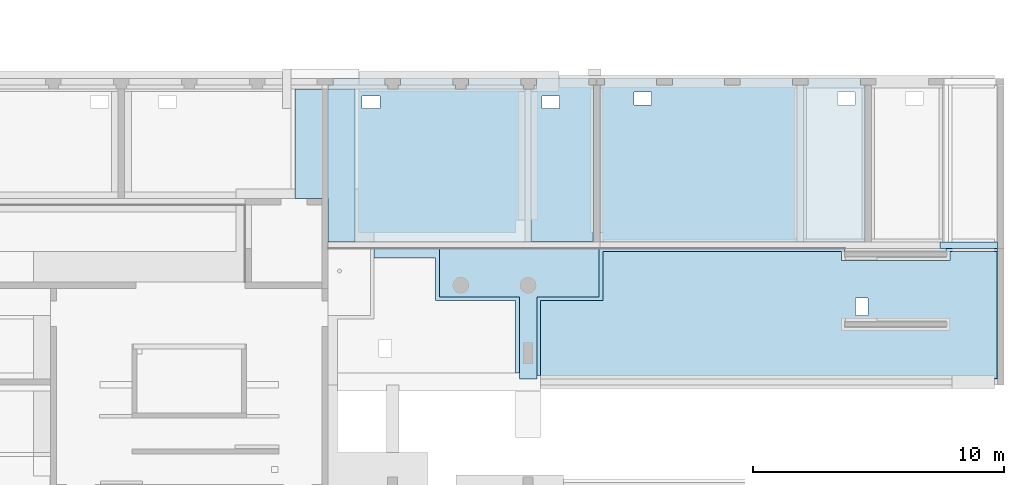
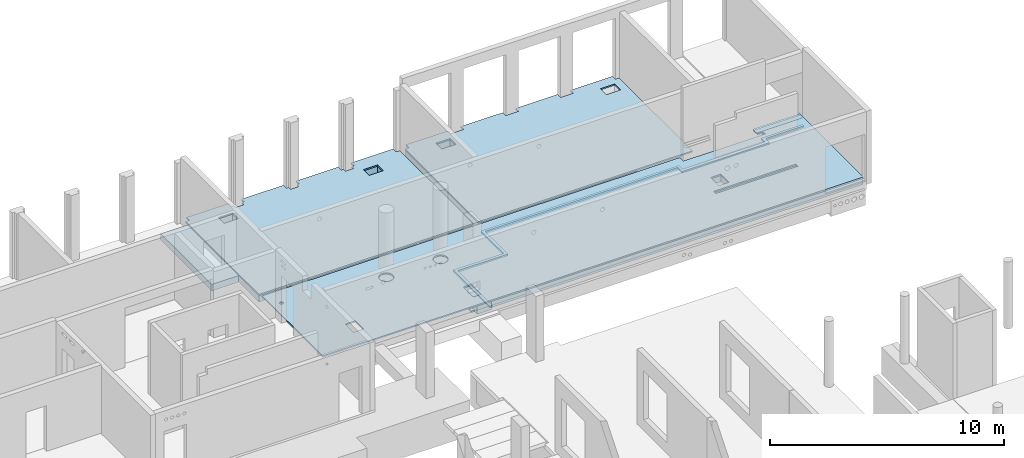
# One storey, part 33 of 60: 12 slabs, 51 openings.
"""IFC2X3 building model written with IfcOpenShell, lengths in millimetres."""

from ifc_helpers import new_model, entity, si_unit, converted_unit, derived_unit, direction, frame, frame_2d, origin, origin_2d_with_axis, place, context, subcontext, project, spatial, polyline, rectangle, circle, outline, extrude, material, layer, layer_set, layer_usage, element, save


model = new_model("IFC2X3")

# Units and contexts
model_context = context("Model", 3, precision=0.01, world=origin(), true_north=direction((6.12303176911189e-17, 1.0)))
body_context = subcontext(model_context, "Body", "Model", "MODEL_VIEW")
ifc_project = project(units=[si_unit("LENGTHUNIT", "METRE", prefix="MILLI"), si_unit("AREAUNIT", "SQUARE_METRE"), si_unit("VOLUMEUNIT", "CUBIC_METRE"), converted_unit("PLANEANGLEUNIT", "DEGREE", entity("IfcRatioMeasure", 0.0174532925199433), si_unit("PLANEANGLEUNIT", "RADIAN"), dimensions=[0, 0, 0, 0, 0, 0, 0]), si_unit("MASSUNIT", "GRAM", prefix="KILO"), derived_unit("MASSDENSITYUNIT", [(si_unit("MASSUNIT", "GRAM", prefix="KILO"), 1), (si_unit("LENGTHUNIT", "METRE"), -3)]), si_unit("TIMEUNIT", "SECOND"), si_unit("FREQUENCYUNIT", "HERTZ"), si_unit("THERMODYNAMICTEMPERATUREUNIT", "DEGREE_CELSIUS"), derived_unit("THERMALTRANSMITTANCEUNIT", [(si_unit("MASSUNIT", "GRAM", prefix="KILO"), 1), (si_unit("THERMODYNAMICTEMPERATUREUNIT", "KELVIN"), -1), (si_unit("TIMEUNIT", "SECOND"), -3)]), derived_unit("VOLUMETRICFLOWRATEUNIT", [(si_unit("LENGTHUNIT", "METRE"), 3), (si_unit("TIMEUNIT", "SECOND"), -1)]), si_unit("ELECTRICCURRENTUNIT", "AMPERE"), si_unit("ELECTRICVOLTAGEUNIT", "VOLT"), si_unit("POWERUNIT", "WATT"), si_unit("FORCEUNIT", "NEWTON", prefix="KILO"), si_unit("ILLUMINANCEUNIT", "LUX"), si_unit("LUMINOUSFLUXUNIT", "LUMEN"), si_unit("LUMINOUSINTENSITYUNIT", "CANDELA"), derived_unit("USERDEFINED", [(si_unit("MASSUNIT", "GRAM", prefix="KILO"), -1), (si_unit("LENGTHUNIT", "METRE"), -2), (si_unit("TIMEUNIT", "SECOND"), 3), (si_unit("LUMINOUSFLUXUNIT", "LUMEN"), 1)]), derived_unit("LINEARVELOCITYUNIT", [(si_unit("LENGTHUNIT", "METRE"), 1), (si_unit("TIMEUNIT", "SECOND"), -1)]), si_unit("PRESSUREUNIT", "PASCAL"), derived_unit("USERDEFINED", [(si_unit("LENGTHUNIT", "METRE"), -2), (si_unit("MASSUNIT", "GRAM", prefix="KILO"), 1), (si_unit("TIMEUNIT", "SECOND"), -2)])], contexts=[model_context])

# Site, building, storey
site_placement = place(None, origin())
site = spatial("IfcSite", under=ifc_project, at=site_placement, Name="Default", CompositionType="ELEMENT")
building_placement = place(site_placement, origin())
building = spatial("IfcBuilding", under=site, at=building_placement, Name="niet gebruiken", CompositionType="ELEMENT")
storey_placement = place(building_placement, origin())
storey = spatial("IfcBuildingStorey", under=building, at=storey_placement, Name="00 begane grond", CompositionType="ELEMENT", Elevation=0.0)

# Slab, openings
ifc_material_1 = material(Name="NLRS_f2_beton ihwg")
ifc_layer_1 = layer(ifc_material_1, 70.0)
ifc_layer_set_1 = layer_set([ifc_layer_1], Name="Floor:NLRS_23.21_FL_druklaag d=70_gen")
ifc_layer_usage_1 = layer_usage(ifc_layer_set_1, "AXIS3", "POSITIVE", 0.0)
slab_1_placement = place(storey_placement, frame((8180.0, 45156.0, -160.0)))
slab_1 = element("IfcSlab", 1, at=slab_1_placement, inside=storey, material=ifc_layer_usage_1, Name="Floor:NLRS_23.21_FL_druklaag d=70_gen:6", ObjectType="Floor:NLRS_23.21_FL_druklaag d=70_gen", PredefinedType="FLOOR", context=body_context, shape_type="SweptSolid", body=[
    extrude(outline(polyline([(-55247.4999999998, 3800.0), (-55247.4999999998, -2460.0), (-44697.4999999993, -2460.0), (-44697.4999999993, 3800.0), (-44882.5000000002, 3800.0), (-44882.5000000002, 4050.0), (-46962.5000000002, 4050.0), (-46962.5000000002, 3800.0), (-47582.5000000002, 3800.0), (-47582.5000000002, 4050.0), (-49662.5000000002, 4050.0), (-49662.5000000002, 3800.0), (-50282.5000000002, 3800.0), (-50282.5000000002, 4050.0), (-52362.5000000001, 4050.0), (-52362.5000000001, 3800.0), (-52982.5000000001, 3800.0), (-52982.5000000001, 4050.0), (-55062.5000000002, 4050.0), (-55062.5000000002, 3800.0), (-55247.4999999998, 3800.0)])), frame((55247.4999999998, 4050.0, 70.0), z_axis=(0.0, 0.0, -1.0), x_axis=(-1.0, 0.0, 0.0)), (0.0, 0.0, 1.0), 70.0),
])
placement_1 = place(storey_placement, frame((8180.0, 45156.0, -160.0)))
placement_2 = place(placement_1, origin())
element("IfcOpeningElement", 2, at=placement_2, cuts=slab_1, ObjectType="Opening", context=body_context, shape_type="SweptSolid", body=[
    extrude(rectangle(XDim=700.000000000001, YDim=499.999999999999, at=origin_2d_with_axis()), frame((1750.0, 7302.50000000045, -380.0), z_axis=(0.0, 0.0, 1.0), x_axis=(-1.0, 0.0, 0.0)), (0.0, 0.0, 1.0), 450.0),
])
placement_3 = place(placement_1, origin())
element("IfcOpeningElement", 3, at=placement_3, cuts=slab_1, ObjectType="Opening", context=body_context, shape_type="SweptSolid", body=[
    extrude(rectangle(XDim=700.000000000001, YDim=499.999999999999, at=origin_2d_with_axis()), frame((4450.0, 7302.50000000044, -380.0), z_axis=(0.0, 0.0, 1.0), x_axis=(-1.0, 0.0, 0.0)), (0.0, 0.0, 1.0), 450.0),
])
placement_4 = place(placement_1, origin())
element("IfcOpeningElement", 4, at=placement_4, cuts=slab_1, ObjectType="Opening", context=body_context, shape_type="SweptSolid", body=[
    extrude(rectangle(XDim=700.000000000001, YDim=499.999999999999, at=origin_2d_with_axis()), frame((12550.0, 7302.50000000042, -380.0), z_axis=(0.0, 0.0, 1.0), x_axis=(-1.0, 0.0, 0.0)), (0.0, 0.0, 1.0), 450.0),
])
placement_5 = place(placement_1, origin())
element("IfcOpeningElement", 5, at=placement_5, cuts=slab_1, ObjectType="Opening", context=body_context, shape_type="SweptSolid", body=[
    extrude(rectangle(XDim=700.000000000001, YDim=499.999999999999, at=origin_2d_with_axis()), frame((15250.0, 7302.50000000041, -380.0), z_axis=(0.0, 0.0, 1.0), x_axis=(-1.0, 0.0, 0.0)), (0.0, 0.0, 1.0), 450.0),
])
placement_6 = place(placement_1, origin())
element("IfcOpeningElement", 6, at=placement_6, cuts=slab_1, ObjectType="Opening", context=body_context, shape_type="SweptSolid", body=[
    extrude(rectangle(XDim=700.000000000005, YDim=499.999999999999, at=origin_2d_with_axis()), frame((42250.0, 7175.0, -380.0), z_axis=(0.0, 0.0, 1.0), x_axis=(-1.0, 0.0, 0.0)), (0.0, 0.0, 1.0), 450.0),
])
placement_7 = place(placement_1, origin())
element("IfcOpeningElement", 7, at=placement_7, cuts=slab_1, ObjectType="Opening", context=body_context, shape_type="SweptSolid", body=[
    extrude(rectangle(XDim=700.000000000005, YDim=499.999999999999, at=origin_2d_with_axis()), frame((50350.0, 7102.50000000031, -380.0), z_axis=(0.0, 0.0, 1.0), x_axis=(-1.0, 0.0, 0.0)), (0.0, 0.0, 1.0), 450.0),
])
placement_8 = place(placement_1, origin())
element("IfcOpeningElement", 8, at=placement_8, cuts=slab_1, ObjectType="Opening", context=body_context, shape_type="SweptSolid", body=[
    extrude(rectangle(XDim=699.999999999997, YDim=499.999999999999, at=origin_2d_with_axis()), frame((53050.0, 7102.50000000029, -380.0), z_axis=(0.0, 0.0, 1.0), x_axis=(-1.0, 0.0, 0.0)), (0.0, 0.0, 1.0), 450.0),
])
placement_9 = place(placement_1, origin())
element("IfcOpeningElement", 9, at=placement_9, cuts=slab_1, ObjectType="Opening", context=body_context, shape_type="SweptSolid", body=[
    extrude(rectangle(XDim=699.999999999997, YDim=499.999999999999, at=origin_2d_with_axis()), frame((60190.0, 7302.50000000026, -380.0), z_axis=(0.0, 0.0, 1.0), x_axis=(-1.0, 0.0, 0.0)), (0.0, 0.0, 1.0), 450.0),
])
placement_10 = place(placement_1, origin())
element("IfcOpeningElement", 10, at=placement_10, cuts=slab_1, ObjectType="Opening", context=body_context, shape_type="SweptSolid", body=[
    extrude(rectangle(XDim=700.000000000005, YDim=499.999999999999, at=origin_2d_with_axis()), frame((63850.0, 7302.50000000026, -380.0), z_axis=(0.0, 0.0, 1.0), x_axis=(-1.0, 0.0, 0.0)), (0.0, 0.0, 1.0), 450.0),
])
placement_11 = place(placement_1, origin())
element("IfcOpeningElement", 11, at=placement_11, cuts=slab_1, ObjectType="Opening", context=body_context, shape_type="SweptSolid", body=[
    extrude(rectangle(XDim=699.999999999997, YDim=499.999999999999, at=origin_2d_with_axis()), frame((90850.0, 7155.0, -380.0), z_axis=(0.0, 0.0, 1.0), x_axis=(-1.0, 0.0, 0.0)), (0.0, 0.0, 1.0), 450.0),
])
placement_12 = place(placement_1, origin())
element("IfcOpeningElement", 12, at=placement_12, cuts=slab_1, ObjectType="Opening", context=body_context, shape_type="SweptSolid", body=[
    extrude(rectangle(XDim=699.999999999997, YDim=499.999999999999, at=origin_2d_with_axis()), frame((97990.0, 7155.0, -380.0), z_axis=(0.0, 0.0, 1.0), x_axis=(-1.0, 0.0, 0.0)), (0.0, 0.0, 1.0), 450.0),
])
placement_13 = place(placement_1, origin())
element("IfcOpeningElement", 13, at=placement_13, cuts=slab_1, ObjectType="Opening", context=body_context, shape_type="SweptSolid", body=[
    extrude(rectangle(XDim=699.999999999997, YDim=499.999999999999, at=origin_2d_with_axis()), frame((101650.0, 7302.50000000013, -380.0), z_axis=(0.0, 0.0, 1.0), x_axis=(-1.0, 0.0, 0.0)), (0.0, 0.0, 1.0), 450.0),
])
placement_14 = place(placement_1, origin())
element("IfcOpeningElement", 14, at=placement_14, cuts=slab_1, ObjectType="Opening", context=body_context, shape_type="SweptSolid", body=[
    extrude(rectangle(XDim=699.999999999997, YDim=499.999999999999, at=origin_2d_with_axis()), frame((109750.0, 7302.50000000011, -380.0), z_axis=(0.0, 0.0, 1.0), x_axis=(-1.0, 0.0, 0.0)), (0.0, 0.0, 1.0), 450.0),
])
placement_15 = place(placement_1, origin())
element("IfcOpeningElement", 15, at=placement_15, cuts=slab_1, ObjectType="Opening", context=body_context, shape_type="SweptSolid", body=[
    extrude(rectangle(XDim=699.999999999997, YDim=499.999999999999, at=origin_2d_with_axis()), frame((112450.0, 7302.5000000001, -380.0), z_axis=(0.0, 0.0, 1.0), x_axis=(-1.0, 0.0, 0.0)), (0.0, 0.0, 1.0), 450.0),
])
placement_16 = place(placement_1, origin())
element("IfcOpeningElement", 16, at=placement_16, cuts=slab_1, ObjectType="Opening", context=body_context, shape_type="SweptSolid", body=[
    extrude(rectangle(XDim=700.000000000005, YDim=499.999999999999, at=origin_2d_with_axis()), frame((31450.0, 7175.0, -380.0), z_axis=(0.0, 0.0, 1.0), x_axis=(-1.0, 0.0, 0.0)), (0.0, 0.0, 1.0), 450.0),
])
placement_17 = place(placement_1, origin())
element("IfcOpeningElement", 17, at=placement_17, cuts=slab_1, ObjectType="Opening", context=body_context, shape_type="SweptSolid", body=[
    extrude(rectangle(XDim=700.000000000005, YDim=499.999999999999, at=origin_2d_with_axis()), frame((34150.0, 7175.0, -380.0), z_axis=(0.0, 0.0, 1.0), x_axis=(-1.0, 0.0, 0.0)), (0.0, 0.0, 1.0), 450.0),
])
placement_18 = place(placement_1, origin())
element("IfcOpeningElement", 18, at=placement_18, cuts=slab_1, ObjectType="Opening", context=body_context, shape_type="SweptSolid", body=[
    extrude(rectangle(XDim=699.999999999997, YDim=499.999999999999, at=origin_2d_with_axis()), frame((82750.0, 7175.0, -380.0), z_axis=(0.0, 0.0, 1.0), x_axis=(-1.0, 0.0, 0.0)), (0.0, 0.0, 1.0), 450.0),
])
placement_19 = place(placement_1, origin())
element("IfcOpeningElement", 19, at=placement_19, cuts=slab_1, ObjectType="Opening", context=body_context, shape_type="SweptSolid", body=[
    extrude(rectangle(XDim=699.999999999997, YDim=499.999999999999, at=origin_2d_with_axis()), frame((80050.0, 7175.0, -380.0), z_axis=(0.0, 0.0, 1.0), x_axis=(-1.0, 0.0, 0.0)), (0.0, 0.0, 1.0), 450.0),
])
placement_20 = place(placement_1, origin())
element("IfcOpeningElement", 20, at=placement_20, cuts=slab_1, ObjectType="Opening", context=body_context, shape_type="SweptSolid", body=[
    extrude(rectangle(XDim=700.000000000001, YDim=499.999999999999, at=origin_2d_with_axis()), frame((19739.8230847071, 7129.78918001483, -380.0), z_axis=(0.0, 0.0, 1.0), x_axis=(-1.0, 0.0, 0.0)), (0.0, 0.0, 1.0), 450.0),
])

slab_2_placement = place(storey_placement, frame((8180.0, 45156.0, -160.0)))
slab_2 = element("IfcSlab", 21, at=slab_2_placement, inside=storey, material=ifc_layer_usage_1, Name="Floor:NLRS_23.21_FL_druklaag d=70_gen:13", ObjectType="Floor:NLRS_23.21_FL_druklaag d=70_gen", PredefinedType="FLOOR", context=body_context, shape_type="SweptSolid", body=[
    extrude(outline(polyline([(-36162.5000000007, 3800.0), (-36267.5000000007, 3800.0), (-36267.5000000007, 3640.0), (-36677.5000000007, 3640.0), (-36677.5000000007, 3800.0), (-36782.5000000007, 3800.0), (-36782.5000000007, 4050.0), (-38862.5000000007, 4050.0), (-38862.5000000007, 3800.0), (-38967.5000000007, 3800.0), (-38967.5000000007, 3640.0), (-39377.5000000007, 3640.0), (-39377.5000000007, 3800.0), (-39482.5000000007, 3800.0), (-39482.5000000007, 4050.0), (-41562.5000000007, 4050.0), (-41562.5000000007, 3800.0), (-41667.5000000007, 3800.0), (-41667.5000000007, 3640.0), (-42077.5000000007, 3640.0), (-42077.5000000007, 3800.0), (-42182.5000000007, 3800.0), (-42182.5000000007, 4050.0), (-44262.5000000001, 4050.0), (-44262.5000000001, 3800.0), (-44447.4999999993, 3800.0), (-44447.4999999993, -2460.0), (-33897.4999999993, -2460.0), (-33897.4999999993, 3800.0), (-34082.5000000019, 3800.0), (-34082.5000000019, 4050.0), (-36162.5000000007, 4050.0), (-36162.5000000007, 3800.0)])), frame((55247.4999999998, 4050.0, 70.0), z_axis=(0.0, 0.0, -1.0), x_axis=(-1.0, 0.0, 0.0)), (0.0, 0.0, 1.0), 70.0),
])
element("IfcOpeningElement", 22, at=placement_2, cuts=slab_2, ObjectType="Opening", context=body_context, shape_type="SweptSolid", body=[
    extrude(rectangle(XDim=700.000000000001, YDim=499.999999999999, at=origin_2d_with_axis()), frame((1750.0, 7302.50000000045, -380.0), z_axis=(0.0, 0.0, 1.0), x_axis=(-1.0, 0.0, 0.0)), (0.0, 0.0, 1.0), 450.0),
])
element("IfcOpeningElement", 23, at=placement_3, cuts=slab_2, ObjectType="Opening", context=body_context, shape_type="SweptSolid", body=[
    extrude(rectangle(XDim=700.000000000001, YDim=499.999999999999, at=origin_2d_with_axis()), frame((4450.0, 7302.50000000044, -380.0), z_axis=(0.0, 0.0, 1.0), x_axis=(-1.0, 0.0, 0.0)), (0.0, 0.0, 1.0), 450.0),
])
element("IfcOpeningElement", 24, at=placement_4, cuts=slab_2, ObjectType="Opening", context=body_context, shape_type="SweptSolid", body=[
    extrude(rectangle(XDim=700.000000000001, YDim=499.999999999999, at=origin_2d_with_axis()), frame((12550.0, 7302.50000000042, -380.0), z_axis=(0.0, 0.0, 1.0), x_axis=(-1.0, 0.0, 0.0)), (0.0, 0.0, 1.0), 450.0),
])
element("IfcOpeningElement", 25, at=placement_5, cuts=slab_2, ObjectType="Opening", context=body_context, shape_type="SweptSolid", body=[
    extrude(rectangle(XDim=700.000000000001, YDim=499.999999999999, at=origin_2d_with_axis()), frame((15250.0, 7302.50000000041, -380.0), z_axis=(0.0, 0.0, 1.0), x_axis=(-1.0, 0.0, 0.0)), (0.0, 0.0, 1.0), 450.0),
])
element("IfcOpeningElement", 26, at=placement_6, cuts=slab_2, ObjectType="Opening", context=body_context, shape_type="SweptSolid", body=[
    extrude(rectangle(XDim=700.000000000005, YDim=499.999999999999, at=origin_2d_with_axis()), frame((42250.0, 7175.0, -380.0), z_axis=(0.0, 0.0, 1.0), x_axis=(-1.0, 0.0, 0.0)), (0.0, 0.0, 1.0), 450.0),
])
element("IfcOpeningElement", 27, at=placement_7, cuts=slab_2, ObjectType="Opening", context=body_context, shape_type="SweptSolid", body=[
    extrude(rectangle(XDim=700.000000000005, YDim=499.999999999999, at=origin_2d_with_axis()), frame((50350.0, 7102.50000000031, -380.0), z_axis=(0.0, 0.0, 1.0), x_axis=(-1.0, 0.0, 0.0)), (0.0, 0.0, 1.0), 450.0),
])
element("IfcOpeningElement", 28, at=placement_8, cuts=slab_2, ObjectType="Opening", context=body_context, shape_type="SweptSolid", body=[
    extrude(rectangle(XDim=699.999999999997, YDim=499.999999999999, at=origin_2d_with_axis()), frame((53050.0, 7102.50000000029, -380.0), z_axis=(0.0, 0.0, 1.0), x_axis=(-1.0, 0.0, 0.0)), (0.0, 0.0, 1.0), 450.0),
])
element("IfcOpeningElement", 29, at=placement_9, cuts=slab_2, ObjectType="Opening", context=body_context, shape_type="SweptSolid", body=[
    extrude(rectangle(XDim=699.999999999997, YDim=499.999999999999, at=origin_2d_with_axis()), frame((60190.0, 7302.50000000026, -380.0), z_axis=(0.0, 0.0, 1.0), x_axis=(-1.0, 0.0, 0.0)), (0.0, 0.0, 1.0), 450.0),
])
element("IfcOpeningElement", 30, at=placement_10, cuts=slab_2, ObjectType="Opening", context=body_context, shape_type="SweptSolid", body=[
    extrude(rectangle(XDim=700.000000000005, YDim=499.999999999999, at=origin_2d_with_axis()), frame((63850.0, 7302.50000000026, -380.0), z_axis=(0.0, 0.0, 1.0), x_axis=(-1.0, 0.0, 0.0)), (0.0, 0.0, 1.0), 450.0),
])
element("IfcOpeningElement", 31, at=placement_11, cuts=slab_2, ObjectType="Opening", context=body_context, shape_type="SweptSolid", body=[
    extrude(rectangle(XDim=699.999999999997, YDim=499.999999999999, at=origin_2d_with_axis()), frame((90850.0, 7155.0, -380.0), z_axis=(0.0, 0.0, 1.0), x_axis=(-1.0, 0.0, 0.0)), (0.0, 0.0, 1.0), 450.0),
])
element("IfcOpeningElement", 32, at=placement_12, cuts=slab_2, ObjectType="Opening", context=body_context, shape_type="SweptSolid", body=[
    extrude(rectangle(XDim=699.999999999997, YDim=499.999999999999, at=origin_2d_with_axis()), frame((97990.0, 7155.0, -380.0), z_axis=(0.0, 0.0, 1.0), x_axis=(-1.0, 0.0, 0.0)), (0.0, 0.0, 1.0), 450.0),
])
element("IfcOpeningElement", 33, at=placement_13, cuts=slab_2, ObjectType="Opening", context=body_context, shape_type="SweptSolid", body=[
    extrude(rectangle(XDim=699.999999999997, YDim=499.999999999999, at=origin_2d_with_axis()), frame((101650.0, 7302.50000000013, -380.0), z_axis=(0.0, 0.0, 1.0), x_axis=(-1.0, 0.0, 0.0)), (0.0, 0.0, 1.0), 450.0),
])
element("IfcOpeningElement", 34, at=placement_14, cuts=slab_2, ObjectType="Opening", context=body_context, shape_type="SweptSolid", body=[
    extrude(rectangle(XDim=699.999999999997, YDim=499.999999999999, at=origin_2d_with_axis()), frame((109750.0, 7302.50000000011, -380.0), z_axis=(0.0, 0.0, 1.0), x_axis=(-1.0, 0.0, 0.0)), (0.0, 0.0, 1.0), 450.0),
])
element("IfcOpeningElement", 35, at=placement_15, cuts=slab_2, ObjectType="Opening", context=body_context, shape_type="SweptSolid", body=[
    extrude(rectangle(XDim=699.999999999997, YDim=499.999999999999, at=origin_2d_with_axis()), frame((112450.0, 7302.5000000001, -380.0), z_axis=(0.0, 0.0, 1.0), x_axis=(-1.0, 0.0, 0.0)), (0.0, 0.0, 1.0), 450.0),
])
element("IfcOpeningElement", 36, at=placement_16, cuts=slab_2, ObjectType="Opening", context=body_context, shape_type="SweptSolid", body=[
    extrude(rectangle(XDim=700.000000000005, YDim=499.999999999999, at=origin_2d_with_axis()), frame((31450.0, 7175.0, -380.0), z_axis=(0.0, 0.0, 1.0), x_axis=(-1.0, 0.0, 0.0)), (0.0, 0.0, 1.0), 450.0),
])
element("IfcOpeningElement", 37, at=placement_17, cuts=slab_2, ObjectType="Opening", context=body_context, shape_type="SweptSolid", body=[
    extrude(rectangle(XDim=700.000000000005, YDim=499.999999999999, at=origin_2d_with_axis()), frame((34150.0, 7175.0, -380.0), z_axis=(0.0, 0.0, 1.0), x_axis=(-1.0, 0.0, 0.0)), (0.0, 0.0, 1.0), 450.0),
])
element("IfcOpeningElement", 38, at=placement_18, cuts=slab_2, ObjectType="Opening", context=body_context, shape_type="SweptSolid", body=[
    extrude(rectangle(XDim=699.999999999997, YDim=499.999999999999, at=origin_2d_with_axis()), frame((82750.0, 7175.0, -380.0), z_axis=(0.0, 0.0, 1.0), x_axis=(-1.0, 0.0, 0.0)), (0.0, 0.0, 1.0), 450.0),
])
element("IfcOpeningElement", 39, at=placement_19, cuts=slab_2, ObjectType="Opening", context=body_context, shape_type="SweptSolid", body=[
    extrude(rectangle(XDim=699.999999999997, YDim=499.999999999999, at=origin_2d_with_axis()), frame((80050.0, 7175.0, -380.0), z_axis=(0.0, 0.0, 1.0), x_axis=(-1.0, 0.0, 0.0)), (0.0, 0.0, 1.0), 450.0),
])
element("IfcOpeningElement", 40, at=placement_20, cuts=slab_2, ObjectType="Opening", context=body_context, shape_type="SweptSolid", body=[
    extrude(rectangle(XDim=700.000000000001, YDim=499.999999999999, at=origin_2d_with_axis()), frame((19739.8230847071, 7129.78918001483, -380.0), z_axis=(0.0, 0.0, 1.0), x_axis=(-1.0, 0.0, 0.0)), (0.0, 0.0, 1.0), 450.0),
])

# Slab, opening
ifc_material_2 = material(Name="NLRS_f2_beton prefab")
ifc_layer_2 = layer(ifc_material_2, 200.0)
ifc_material_3 = material(Name="NLRS_n7_isolatie EPS")
ifc_layer_3 = layer(ifc_material_3, 132.0)
ifc_layer_set_2 = layer_set([ifc_layer_2, ifc_layer_3], Name="Floor:NLRS_23.21_FL_geisoleerde kanaalplaat d=200 rc 3.5 iso132_gen")
ifc_layer_usage_2 = layer_usage(ifc_layer_set_2, "AXIS3", "POSITIVE", 0.0)
slab_3_placement = place(storey_placement, frame((108145.0, 46766.0, -492.0)))
slab_3 = element("IfcSlab", 41, at=slab_3_placement, inside=storey, material=ifc_layer_usage_2, Name="Floor:NLRS_23.21_FL_geisoleerde kanaalplaat d=200 rc 3.5 iso132_gen", ObjectType="Floor:NLRS_23.21_FL_geisoleerde kanaalplaat d=200 rc 3.5 iso132_gen", PredefinedType="FLOOR", context=body_context, shape_type="SweptSolid", body=[
    extrude(rectangle(XDim=6220.00000000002, YDim=7809.99999999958, at=frame_2d((0.0, 0.0), x_axis=(0.0, -1.0))), frame((3905.0, 3110.0, 332.0), z_axis=(0.0, 0.0, -1.0), x_axis=(-1.0, 0.0, 0.0)), (0.0, 0.0, 1.0), 332.0),
])
opening_39_placement = place(slab_3_placement, origin())
element("IfcOpeningElement", 42, at=opening_39_placement, cuts=slab_3, ObjectType="Opening", context=body_context, shape_type="SweptSolid", body=[
    extrude(rectangle(XDim=699.999999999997, YDim=499.999999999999, at=origin_2d_with_axis()), frame((1685.0, 5692.5000000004, -48.0), z_axis=(0.0, 0.0, 1.0), x_axis=(-1.0, 0.0, 0.0)), (0.0, 0.0, 1.0), 450.0),
])

# Slab, openings
ifc_layer_usage_3 = layer_usage(ifc_layer_set_2, "AXIS3", "POSITIVE", 0.0)
slab_4_placement = place(storey_placement, frame((97345.0, 41331.0, -402.0)))
slab_4 = element("IfcSlab", 43, at=slab_4_placement, inside=storey, material=ifc_layer_usage_3, Name="Floor:NLRS_23.21_FL_geisoleerde kanaalplaat d=200 rc 3.5 iso132_gen:2", ObjectType="Floor:NLRS_23.21_FL_geisoleerde kanaalplaat d=200 rc 3.5 iso132_gen", PredefinedType="FLOOR", context=body_context, shape_type="SweptSolid", body=[
    extrude(outline(polyline([(5012.50000000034, -2572.50000000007), (5012.50000000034, 667.500000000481), (2537.50000000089, 667.500000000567), (2537.50000000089, 2572.50000000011), (-7202.49999999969, 2572.50000000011), (-7202.49999999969, 2217.50000000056), (-11302.4999999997, 2217.50000000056), (-11302.4999999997, 2572.50000000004), (-13292.5, 2572.50000000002), (-13292.5, -2572.50000000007), (5012.50000000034, -2572.50000000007)])), frame((13292.5, 2572.50000000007, 332.0), z_axis=(0.0, 0.0, -1.0), x_axis=(-1.0, 0.0, 0.0)), (0.0, 0.0, 1.0), 332.0),
])
placement_21 = place(storey_placement, frame((97345.0, 41331.0, -402.0)))
opening_40_placement = place(placement_21, origin())
element("IfcOpeningElement", 44, at=opening_40_placement, cuts=slab_4, ObjectType="Opening", context=body_context, shape_type="SweptSolid", body=[
    extrude(rectangle(XDim=700.000000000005, YDim=500.000000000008, at=origin_2d_with_axis()), frame((2250.0, 1200.0, -48.0), z_axis=(0.0, 0.0, 1.0), x_axis=(0.0, -1.0, 0.0)), (0.0, 0.0, 1.0), 450.0),
])
opening_41_placement = place(placement_21, origin())
element("IfcOpeningElement", 45, at=opening_41_placement, cuts=slab_4, ObjectType="Opening", context=body_context, shape_type="SweptSolid", body=[
    extrude(rectangle(XDim=700.000000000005, YDim=500.000000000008, at=origin_2d_with_axis()), frame((21200.0, 2850.0, -48.0), z_axis=(0.0, 0.0, 1.0), x_axis=(0.0, -1.0, 0.0)), (0.0, 0.0, 1.0), 450.0),
])
opening_42_placement = place(placement_21, frame((22545.0, 2155.0, 332.0)))
element("IfcOpeningElement", 46, at=opening_42_placement, cuts=slab_4, Name="Floor:NLRS_23.21_FL_geisoleerde kanaalplaat d=200 rc 3.5 iso132_gen:2", ObjectType="Opening", context=body_context, shape_type="SweptSolid", body=[
    extrude(rectangle(XDim=289.999999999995, YDim=4099.99999999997, at=origin_2d_with_axis()), frame((0.0, 0.0, 0.0), z_axis=(0.0, 0.0, -1.0), x_axis=(0.0, 1.0, 0.0)), (0.0, 0.0, 1.0), 332.0),
])

# Slab, opening
ifc_layer_usage_4 = layer_usage(ifc_layer_set_2, "AXIS3", "POSITIVE", 0.0)
slab_5_placement = place(storey_placement, frame((105420.0, 46766.0, -492.0)))
slab_5 = element("IfcSlab", 47, at=slab_5_placement, inside=storey, material=ifc_layer_usage_4, Name="Floor:NLRS_23.21_FL_geisoleerde kanaalplaat d=200 rc 3.5 iso132_gen", ObjectType="Floor:NLRS_23.21_FL_geisoleerde kanaalplaat d=200 rc 3.5 iso132_gen", PredefinedType="FLOOR", context=body_context, shape_type="SweptSolid", body=[
    extrude(outline(polyline([(1217.50000000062, 2950.0), (1007.50000000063, 2950.0), (1007.50000000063, 3110.0), (-1217.5000000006, 3110.0), (-1217.5000000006, -3110.0), (1217.50000000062, -3110.0), (1217.50000000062, 2950.0)])), frame((1217.50000000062, 3110.0, 332.0), z_axis=(0.0, 0.0, -1.0), x_axis=(-1.0, 0.0, 0.0)), (0.0, 0.0, 1.0), 332.0),
])
opening_43_placement = place(slab_5_placement, origin())
element("IfcOpeningElement", 48, at=opening_43_placement, cuts=slab_5, ObjectType="Opening", context=body_context, shape_type="SweptSolid", body=[
    extrude(rectangle(XDim=699.999999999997, YDim=499.999999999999, at=origin_2d_with_axis()), frame((750.0, 5545.0, -48.0), z_axis=(0.0, 0.0, 1.0), x_axis=(-1.0, 0.0, 0.0)), (0.0, 0.0, 1.0), 450.0),
])

ifc_layer_usage_5 = layer_usage(ifc_layer_set_2, "AXIS3", "POSITIVE", 0.0)
slab_6_placement = place(storey_placement, frame((98400.0, 46766.0, -492.0)))
slab_6 = element("IfcSlab", 49, at=slab_6_placement, inside=storey, material=ifc_layer_usage_5, Name="Floor:NLRS_23.21_FL_geisoleerde kanaalplaat d=200 rc 3.5 iso132_gen", ObjectType="Floor:NLRS_23.21_FL_geisoleerde kanaalplaat d=200 rc 3.5 iso132_gen", PredefinedType="FLOOR", context=body_context, shape_type="SweptSolid", body=[
    extrude(rectangle(XDim=6729.99999999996, YDim=6060.00000000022, at=frame_2d((0.0, 0.0), x_axis=(-1.0, 0.0))), frame((3365.0, 3030.0, 332.0), z_axis=(0.0, 0.0, -1.0), x_axis=(-1.0, 0.0, 0.0)), (0.0, 0.0, 1.0), 332.0),
])
opening_44_placement = place(slab_6_placement, origin())
element("IfcOpeningElement", 50, at=opening_44_placement, cuts=slab_6, ObjectType="Opening", context=body_context, shape_type="SweptSolid", body=[
    extrude(rectangle(XDim=699.999999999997, YDim=499.999999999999, at=origin_2d_with_axis()), frame((630.0, 5545.0, -48.0), z_axis=(0.0, 0.0, 1.0), x_axis=(-1.0, 0.0, 0.0)), (0.0, 0.0, 1.0), 450.0),
])

# Slab, openings
ifc_layer_4 = layer(ifc_material_1, 70.0)
ifc_layer_set_3 = layer_set([ifc_layer_4], Name="Floor:NLRS_23.21_FL_druklaag d=70 - gevlinderd_gen")
ifc_layer_usage_6 = layer_usage(ifc_layer_set_3, "AXIS3", "POSITIVE", 0.0)
slab_7_placement = place(storey_placement, frame((97325.0, 41311.0, -70.0)))
slab_7 = element("IfcSlab", 51, at=slab_7_placement, inside=storey, material=ifc_layer_usage_6, Name="Floor:NLRS_23.21_FL_druklaag d=70 - gevlinderd_gen", ObjectType="Floor:NLRS_23.21_FL_druklaag d=70 - gevlinderd_gen", PredefinedType="FLOOR", context=body_context, shape_type="SweptSolid", body=[
    extrude(outline(polyline([(-13312.5000000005, 2717.49999999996), (-13312.5000000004, -2717.50000000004), (13312.5000000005, -2717.49999999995), (13312.5000000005, 2447.49999999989), (-7242.50000000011, 2447.49999999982), (-7242.50000000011, 2147.50000000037), (-11292.4992936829, 2147.50000000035), (-11292.4992936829, 2327.50000000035), (-11012.5000000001, 2327.50000000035), (-11012.5000000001, 2717.49999999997), (-13312.5000000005, 2717.49999999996)])), frame((13312.5000000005, 2717.50000000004, 70.0), z_axis=(0.0, 0.0, -1.0), x_axis=(-1.0, 0.0, 0.0)), (0.0, 0.0, 1.0), 70.0),
])
opening_45_placement = place(slab_7_placement, origin())
element("IfcOpeningElement", 52, at=opening_45_placement, cuts=slab_7, ObjectType="Opening", context=body_context, shape_type="SweptSolid", body=[
    extrude(circle(Radius=80.0, at=origin_2d_with_axis()), frame((448.066666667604, 4290.57249999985, -700.0), z_axis=(0.0, 0.0, 1.0), x_axis=(0.0, 1.0, 0.0)), (0.0, 0.0, 1.0), 770.0),
])
opening_46_placement = place(slab_7_placement, origin())
element("IfcOpeningElement", 53, at=opening_46_placement, cuts=slab_7, ObjectType="Opening", context=body_context, shape_type="SweptSolid", body=[
    extrude(rectangle(XDim=700.000000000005, YDim=500.000000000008, at=origin_2d_with_axis()), frame((2270.0, 1220.0, -380.0), z_axis=(0.0, 0.0, 1.0), x_axis=(0.0, -1.0, 0.0)), (0.0, 0.0, 1.0), 450.0),
])
opening_47_placement = place(slab_7_placement, origin())
element("IfcOpeningElement", 54, at=opening_47_placement, cuts=slab_7, ObjectType="Opening", context=body_context, shape_type="SweptSolid", body=[
    extrude(rectangle(XDim=700.000000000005, YDim=500.000000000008, at=origin_2d_with_axis()), frame((21220.0, 2870.0, -380.0), z_axis=(0.0, 0.0, 1.0), x_axis=(0.0, -1.0, 0.0)), (0.0, 0.0, 1.0), 450.0),
])
opening_48_placement = place(slab_7_placement, frame((22580.0, 2175.0, 70.0)))
element("IfcOpeningElement", 55, at=opening_48_placement, cuts=slab_7, Name="Floor:NLRS_23.21_FL_druklaag d=70 - gevlinderd_gen:2", ObjectType="Opening", context=body_context, shape_type="SweptSolid", body=[
    extrude(rectangle(XDim=4050.0, YDim=180.000000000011, at=origin_2d_with_axis()), frame((0.0, 0.0, 0.0), z_axis=(0.0, 0.0, -1.0), x_axis=(1.0, 0.0, 0.0)), (0.0, 0.0, 1.0), 70.0),
])
opening_49_placement = place(slab_7_placement, frame((5275.0, 3720.0, 70.0)))
element("IfcOpeningElement", 56, at=opening_49_placement, cuts=slab_7, Name="Floor:NLRS_23.21_FL_druklaag d=70 - gevlinderd_gen:3", ObjectType="Opening", context=body_context, shape_type="SweptSolid", body=[
    extrude(circle(Radius=325.0, at=origin_2d_with_axis()), frame((0.0, 0.0, 0.0), z_axis=(0.0, 0.0, -1.0), x_axis=(1.0, 0.0, 0.0)), (0.0, 0.0, 1.0), 70.0),
])
opening_50_placement = place(slab_7_placement, frame((7950.0, 3720.0, 70.0)))
element("IfcOpeningElement", 57, at=opening_50_placement, cuts=slab_7, Name="Floor:NLRS_23.21_FL_druklaag d=70 - gevlinderd_gen:4", ObjectType="Opening", context=body_context, shape_type="SweptSolid", body=[
    extrude(circle(Radius=325.0, at=origin_2d_with_axis()), frame((0.0, 0.0, 0.0), z_axis=(0.0, 0.0, -1.0), x_axis=(1.0, 0.0, 0.0)), (0.0, 0.0, 1.0), 70.0),
])
opening_51_placement = place(slab_7_placement, frame((7950.0, 1020.0, 70.0)))
element("IfcOpeningElement", 58, at=opening_51_placement, cuts=slab_7, Name="Floor:NLRS_23.21_FL_druklaag d=70 - gevlinderd_gen:5", ObjectType="Opening", context=body_context, shape_type="SweptSolid", body=[
    extrude(rectangle(XDim=399.999999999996, YDim=849.999999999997, at=origin_2d_with_axis()), frame((0.0, 0.0, 0.0), z_axis=(0.0, 0.0, -1.0), x_axis=(-1.0, 0.0, 0.0)), (0.0, 0.0, 1.0), 70.0),
])

# Slabs
ifc_layer_5 = layer(ifc_material_1, 332.0)
ifc_layer_set_4 = layer_set([ifc_layer_5], Name="Floor:NLRS_13.22_FL_beton ihwg d=332_gen")
ifc_layer_usage_7 = layer_usage(ifc_layer_set_4, "AXIS3", "POSITIVE", 0.0)
slab_8_placement = place(storey_placement, origin())
element("IfcSlab", 59, at=slab_8_placement, inside=storey, material=ifc_layer_usage_7, Name="Floor:NLRS_13.22_FL_beton ihwg d=332_gen", ObjectType="Floor:NLRS_13.22_FL_beton ihwg d=332_gen", PredefinedType="FLOOR", context=body_context, shape_type="SweptSolid", body=[
    extrude(outline(polyline([(-880.0, -1241.66666666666), (3490.0, -1241.66666666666), (3490.0, 1158.33333333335), (-2610.0, 1158.33333333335), (-2610.0, 83.3333333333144), (-880.0, 83.3333333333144), (-880.0, -1241.66666666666)])), frame((97241.6666666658, 49356.0, -160.0), z_axis=(0.0, 0.0, -1.0), x_axis=(0.0, 1.0, 0.0)), (0.0, 0.0, 1.0), 332.0),
])
ifc_layer_6 = layer(ifc_material_1, 90.0)
ifc_layer_set_5 = layer_set([ifc_layer_6], Name="Floor:NLRS_23.21_FL_beton ihwg d=90_gen")
ifc_layer_usage_8 = layer_usage(ifc_layer_set_5, "AXIS3", "POSITIVE", 0.0)
slab_9_placement = place(storey_placement, origin())
element("IfcSlab", 60, at=slab_9_placement, inside=storey, material=ifc_layer_usage_8, Name="Floor:NLRS_23.21_FL_beton ihwg d=90_gen", ObjectType="Floor:NLRS_23.21_FL_beton ihwg d=90_gen", PredefinedType="FLOOR", context=body_context, shape_type="SweptSolid", body=[
    extrude(outline(polyline([(1492.0, -3290.0), (1867.0, -3290.0), (1867.0, -690.0), (-58.0, -690.0), (-58.0, 2485.0), (-3093.0, 2485.0), (-3093.0, 2335.0), (-208.0, 2335.0), (-208.0, -840.0), (1492.0, -840.0), (1492.0, -3290.0)])), frame((102440.0, 44629.0, -402.0), z_axis=(0.0, 0.0, -1.0), x_axis=(0.0, 1.0, 0.0)), (0.0, 0.0, 1.0), 90.0),
])
ifc_layer_7 = layer(ifc_material_1, 422.0)
ifc_layer_set_6 = layer_set([ifc_layer_7], Name="Floor:NLRS_13.22_FL_beton ihwg d=422_ge")
ifc_layer_usage_9 = layer_usage(ifc_layer_set_6, "AXIS3", "POSITIVE", 0.0)
slab_10_placement = place(storey_placement, origin())
element("IfcSlab", 61, at=slab_10_placement, inside=storey, material=ifc_layer_usage_9, Name="Floor:NLRS_13.22_FL_beton ihwg d=422_ge", ObjectType="Floor:NLRS_13.22_FL_beton ihwg d=422_ge", PredefinedType="FLOOR", context=body_context, shape_type="SweptSolid", body=[
    extrude(outline(polyline([(338.75000000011, -3350.0), (2243.74999999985, -3350.0), (2243.74999999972, 3000.0), (338.750000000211, 3000.0), (338.750000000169, 525.0), (-2921.25000000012, 525.0), (-2921.25000000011, -175.0), (338.750000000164, -175.0), (338.75000000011, -3350.0)])), frame((105100.0, 44232.2500000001, -70.0), z_axis=(0.0, 0.0, -1.0), x_axis=(0.0, 1.0, 0.0)), (0.0, 0.0, 1.0), 422.0),
])
ifc_layer_usage_10 = layer_usage(ifc_layer_set_5, "AXIS3", "POSITIVE", 0.0)
slab_11_placement = place(storey_placement, origin())
element("IfcSlab", 62, at=slab_11_placement, inside=storey, material=ifc_layer_usage_10, Name="Floor:NLRS_23.21_FL_beton ihwg d=90_gen", ObjectType="Floor:NLRS_23.21_FL_beton ihwg d=90_gen", PredefinedType="FLOOR", context=body_context, shape_type="SweptSolid", body=[
    extrude(outline(polyline([(-3937.22222222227, -8957.22222222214), (-802.222222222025, -8957.22222222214), (-802.222222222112, -6482.2222222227), (1122.77777777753, -6482.22222222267), (1122.77777777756, 3277.77777777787), (802.777777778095, 3277.77777777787), (802.777777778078, 7317.77777777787), (1122.77777777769, 7317.77777777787), (1122.77777777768, 9367.7777777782), (997.777777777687, 9367.7777777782), (997.777777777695, 7467.77777777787), (647.777777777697, 7467.77777777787), (647.777777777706, 3147.7777777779), (997.777777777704, 3147.7777777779), (997.777777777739, -6332.2222222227), (-952.222222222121, -6332.22222222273), (-952.222222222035, -8807.22222222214), (-3937.22222222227, -8807.22222222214), (-3937.22222222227, -8957.22222222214)])), frame((114582.222222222, 45373.2222222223, -402.0), z_axis=(0.0, 0.0, -1.0), x_axis=(0.0, 1.0, 0.0)), (0.0, 0.0, 1.0), 90.0),
])
ifc_layer_8 = layer(ifc_material_1, 20.0)
ifc_layer_set_7 = layer_set([ifc_layer_8], Name="Floor:NLRS_23.21_FL_beton ihwg d=20_gen")
ifc_layer_usage_11 = layer_usage(ifc_layer_set_7, "AXIS3", "POSITIVE", 0.0)
slab_12_placement = place(storey_placement, origin())
element("IfcSlab", 63, at=slab_12_placement, inside=storey, material=ifc_layer_usage_11, Name="Floor:NLRS_23.21_FL_beton ihwg d=20_gen", ObjectType="Floor:NLRS_23.21_FL_beton ihwg d=20_gen", PredefinedType="FLOOR", context=body_context, shape_type="SweptSolid", body=[
    extrude(rectangle(XDim=250.000000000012, YDim=2300.00000000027, at=frame_2d((0.0, 1.72803993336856e-11), x_axis=(1.0, 0.0))), frame((122800.0, 46621.0, -70.0), z_axis=(0.0, 0.0, -1.0), x_axis=(0.0, 1.0, 0.0)), (0.0, 0.0, 1.0), 20.0),
])

save(model, "model.ifc")
